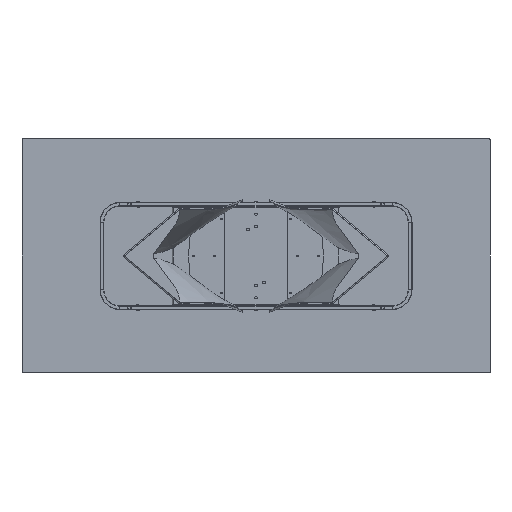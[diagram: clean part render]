
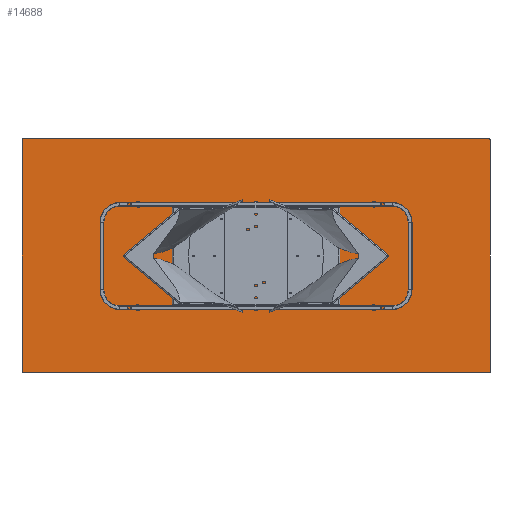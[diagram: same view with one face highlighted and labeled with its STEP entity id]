
A CAD part, front view. The second image highlights one B-rep face of the part: STEP entity #14688.
In plain terms, the highlighted planar face has unit normal (0, -1, 0).
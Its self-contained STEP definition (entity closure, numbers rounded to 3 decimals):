
#656 = EDGE_CURVE ( 'NONE', #10712, #17865, #16446, .T. ) ;
#1142 = EDGE_CURVE ( 'NONE', #4301, #17865, #11543, .T. ) ;
#1147 = ORIENTED_EDGE ( 'NONE', *, *, #5182, .F. ) ;
#1562 = CARTESIAN_POINT ( 'NONE',  ( -1200., 0., -600. ) ) ;
#2437 = DIRECTION ( 'NONE',  ( 0., 0., 1. ) ) ;
#2786 = CIRCLE ( 'NONE', #5320, 5. ) ;
#2993 = PLANE ( 'NONE',  #21685 ) ;
#3215 = LINE ( 'NONE', #11875, #22134 ) ;
#3849 = CARTESIAN_POINT ( 'NONE',  ( -1195., 0., 600. ) ) ;
#3905 = AXIS2_PLACEMENT_3D ( 'NONE', #19389, #10201, #17680 ) ;
#3909 = VERTEX_POINT ( 'NONE', #16948 ) ;
#3937 = VECTOR ( 'NONE', #17773, 1000. ) ;
#4213 = CARTESIAN_POINT ( 'NONE',  ( -1195., 0., -595. ) ) ;
#4301 = VERTEX_POINT ( 'NONE', #3849 ) ;
#4825 = DIRECTION ( 'NONE',  ( 1., 0., 0. ) ) ;
#5182 = EDGE_CURVE ( 'NONE', #4301, #6878, #3215, .T. ) ;
#5320 = AXIS2_PLACEMENT_3D ( 'NONE', #4213, #13086, #20027 ) ;
#5355 = AXIS2_PLACEMENT_3D ( 'NONE', #10263, #8666, #15627 ) ;
#5531 = CARTESIAN_POINT ( 'NONE',  ( 1195., 0., -600. ) ) ;
#5945 = EDGE_LOOP ( 'NONE', ( #17794, #19235, #1147, #20449, #7816, #15684, #7416, #20378 ) ) ;
#6002 = CIRCLE ( 'NONE', #16553, 5. ) ;
#6063 = VERTEX_POINT ( 'NONE', #5531 ) ;
#6449 = CARTESIAN_POINT ( 'NONE',  ( -1200., 0., 595. ) ) ;
#6471 = LINE ( 'NONE', #1562, #17955 ) ;
#6878 = VERTEX_POINT ( 'NONE', #17114 ) ;
#7091 = CARTESIAN_POINT ( 'NONE',  ( 1200., 0., -595. ) ) ;
#7416 = ORIENTED_EDGE ( 'NONE', *, *, #16058, .F. ) ;
#7816 = ORIENTED_EDGE ( 'NONE', *, *, #656, .F. ) ;
#7849 = VECTOR ( 'NONE', #2437, 1000. ) ;
#7980 = VERTEX_POINT ( 'NONE', #18853 ) ;
#8666 = DIRECTION ( 'NONE',  ( 0., -1., 0. ) ) ;
#9640 = EDGE_CURVE ( 'NONE', #10712, #3909, #2786, .T. ) ;
#10170 = VERTEX_POINT ( 'NONE', #7091 ) ;
#10201 = DIRECTION ( 'NONE',  ( 0., -1., 0. ) ) ;
#10263 = CARTESIAN_POINT ( 'NONE',  ( -1195., 0., 595. ) ) ;
#10712 = VERTEX_POINT ( 'NONE', #22434 ) ;
#10819 = CARTESIAN_POINT ( 'NONE',  ( 1200., 0., -600. ) ) ;
#11543 = CIRCLE ( 'NONE', #5355, 5. ) ;
#11875 = CARTESIAN_POINT ( 'NONE',  ( -1200., 0., 600. ) ) ;
#12046 = DIRECTION ( 'NONE',  ( -1., 0., 0. ) ) ;
#13086 = DIRECTION ( 'NONE',  ( 0., -1., 0. ) ) ;
#13720 = CIRCLE ( 'NONE', #3905, 5. ) ;
#14039 = DIRECTION ( 'NONE',  ( 0., 0., 1. ) ) ;
#14688 = ADVANCED_FACE ( 'NONE', ( #16436 ), #2993, .F. ) ;
#14952 = CARTESIAN_POINT ( 'NONE',  ( 0., 0., 0. ) ) ;
#15529 = CARTESIAN_POINT ( 'NONE',  ( 1195., 0., 595. ) ) ;
#15627 = DIRECTION ( 'NONE',  ( 0., 0., 1. ) ) ;
#15684 = ORIENTED_EDGE ( 'NONE', *, *, #9640, .T. ) ;
#16058 = EDGE_CURVE ( 'NONE', #6063, #3909, #6471, .T. ) ;
#16436 = FACE_OUTER_BOUND ( 'NONE', #5945, .T. ) ;
#16446 = LINE ( 'NONE', #18155, #7849 ) ;
#16553 = AXIS2_PLACEMENT_3D ( 'NONE', #15529, #17347, #14039 ) ;
#16948 = CARTESIAN_POINT ( 'NONE',  ( -1195., 0., -600. ) ) ;
#17114 = CARTESIAN_POINT ( 'NONE',  ( 1195., 0., 600. ) ) ;
#17347 = DIRECTION ( 'NONE',  ( 0., -1., 0. ) ) ;
#17680 = DIRECTION ( 'NONE',  ( 0., 0., 1. ) ) ;
#17773 = DIRECTION ( 'NONE',  ( 0., 0., -1. ) ) ;
#17794 = ORIENTED_EDGE ( 'NONE', *, *, #21956, .F. ) ;
#17865 = VERTEX_POINT ( 'NONE', #6449 ) ;
#17955 = VECTOR ( 'NONE', #12046, 1000. ) ;
#18119 = LINE ( 'NONE', #10819, #3937 ) ;
#18155 = CARTESIAN_POINT ( 'NONE',  ( -1200., 0., -600. ) ) ;
#18367 = DIRECTION ( 'NONE',  ( 0., 0., 1. ) ) ;
#18853 = CARTESIAN_POINT ( 'NONE',  ( 1200., 0., 595. ) ) ;
#19235 = ORIENTED_EDGE ( 'NONE', *, *, #19816, .T. ) ;
#19389 = CARTESIAN_POINT ( 'NONE',  ( 1195., 0., -595. ) ) ;
#19816 = EDGE_CURVE ( 'NONE', #7980, #6878, #6002, .T. ) ;
#20027 = DIRECTION ( 'NONE',  ( 0., 0., 1. ) ) ;
#20184 = DIRECTION ( 'NONE',  ( 0., 1., 0. ) ) ;
#20378 = ORIENTED_EDGE ( 'NONE', *, *, #21202, .T. ) ;
#20449 = ORIENTED_EDGE ( 'NONE', *, *, #1142, .T. ) ;
#21202 = EDGE_CURVE ( 'NONE', #6063, #10170, #13720, .T. ) ;
#21685 = AXIS2_PLACEMENT_3D ( 'NONE', #14952, #20184, #18367 ) ;
#21956 = EDGE_CURVE ( 'NONE', #7980, #10170, #18119, .T. ) ;
#22134 = VECTOR ( 'NONE', #4825, 1000. ) ;
#22434 = CARTESIAN_POINT ( 'NONE',  ( -1200., 0., -595. ) ) ;
